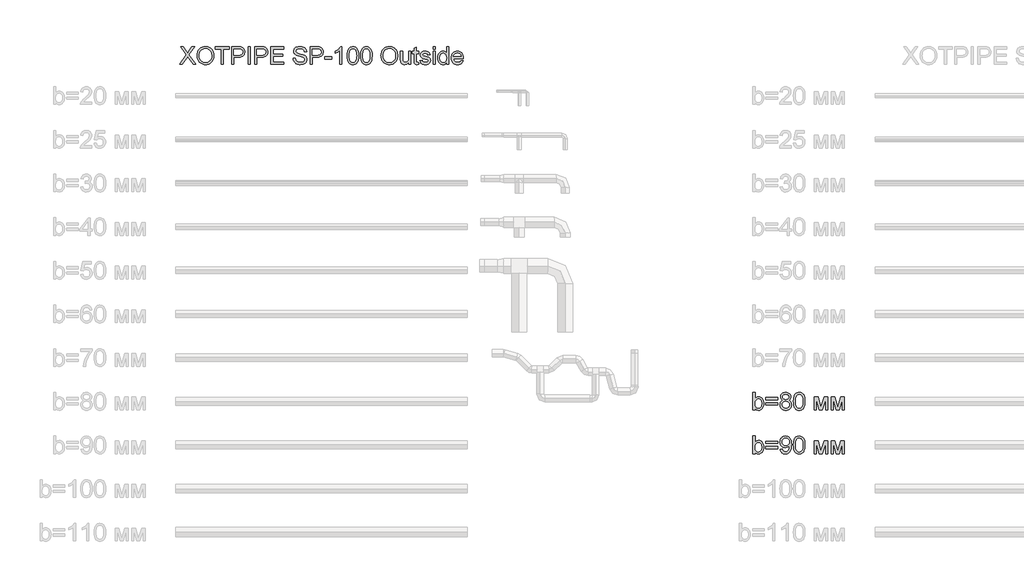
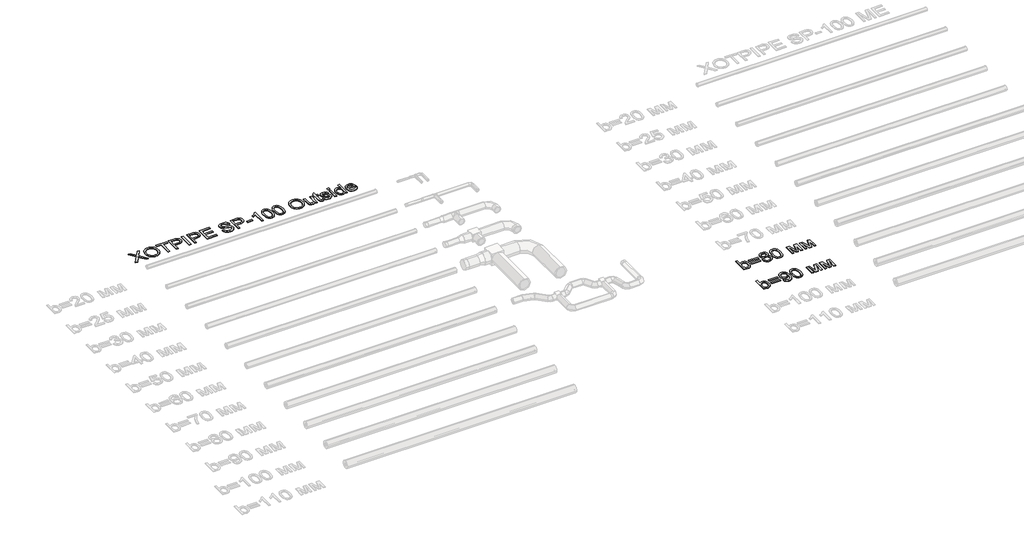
# One storey, part 54 of 86: 3 proxies.
"""IFC4 building model written with IfcOpenShell, lengths in millimetres."""

from ifc_helpers import new_model, si_unit, origin, origin_with_axes, place, context, project, spatial, polyline, outline, extrude, element, save

model = new_model("IFC4")

# Units and contexts
model_context = context("Model", 3, world=origin())
ifc_project = project(units=[si_unit("LENGTHUNIT", "METRE", prefix="MILLI")], contexts=[model_context])

# Site, building, storey
site = spatial("IfcSite", under=ifc_project)
building = spatial("IfcBuilding", under=site)
storey = spatial("IfcBuildingStorey", under=building, Name="Уровень 1", Elevation=0.0)

# Proxies
placement = place(None, origin())
element("IfcBuildingElementProxy", 1, Name="Текст модели 1", ObjectType="Текст модели 1", at=placement, inside=storey, context=model_context, shape_type="SweptSolid", body=[
    extrude(outline(polyline([(27407.9238906, 30543.2937088), (27640.2781587, 30871.7387541), (27445.5950069, 31146.0315697), (27535.9468249, 31146.0315697), (27645.5756594, 30991.6682845), (27671.7320693, 30952.5624284), (27682.5110118, 30931.4827901), (27725.7739344, 30992.6983541), (27834.2255466, 31146.0315697), (27925.9017398, 31146.0315697), (27731.2185879, 30870.8558373), (27963.5728561, 30543.2937088), (27873.2210381, 30543.2937088), (27718.4162945, 30761.6684611), (27686.1898317, 30806.9915229), (27650.7260074, 30757.2538772), (27499.6000838, 30543.2937088), (27407.9238906, 30543.2937088)])), origin_with_axes(), (0.0, 0.0, 1.0), 20.0),
    extrude(outline(polyline([(28010.6617515, 30836.7163882), (28015.6833407, 30907.4141106), (28030.7481084, 30970.000035), (28055.8560546, 31024.4741614), (28072.1762196, 31048.6693004), (28091.0071792, 31070.8364899), (28134.0953579, 31107.8546156), (28183.0144662, 31134.2961341), (28237.7645041, 31150.1610451), (28298.3454717, 31155.4493488), (28338.8952646, 31152.9661453), (28377.4033124, 31145.5165349), (28413.8696152, 31133.1005176), (28448.2941729, 31115.7180933), (28479.7112953, 31093.8934939), (28507.1552921, 31068.1509513), (28530.6261634, 31038.4904655), (28550.1239092, 31004.9120363), (28565.4461943, 30968.1790191), (28576.3906836, 30929.0547689), (28582.9573773, 30887.5392858), (28585.1462751, 30843.6325697), (28582.8424141, 30799.1464394), (28575.9308311, 30757.0699362), (28564.4115262, 30717.4030601), (28548.2844992, 30680.145811), (28527.9314278, 30646.2822733), (28503.7339896, 30616.7965314), (28475.6921845, 30591.6885853), (28443.8060126, 30570.9584348), (28409.3308711, 30554.7348388), (28373.5221574, 30543.146556), (28336.3798715, 30536.1935863), (28297.9040133, 30533.8759297), (28256.6460475, 30536.4373081), (28217.6321619, 30544.1214433), (28180.8623565, 30556.9283352), (28146.3366313, 30574.857984), (28114.9562971, 30597.2160122), (28087.6226648, 30623.3080428), (28064.3357346, 30653.1340755), (28045.0955062, 30686.6941105), (28030.0307385, 30722.64078), (28019.2701901, 30759.6267161), (28012.8138611, 30797.6519188), (28010.6617515, 30836.7163882)]), holes=[polyline([(28086.0039841, 30835.9806242), (28089.770176, 30786.0314463), (28101.0687518, 30741.6924688), (28119.8997114, 30702.9636918), (28146.2630549, 30669.8451151), (28178.3101752, 30643.3208233), (28214.1924653, 30624.3749005), (28253.9099252, 30613.0073469), (28297.4625549, 30609.2181623), (28341.7601456, 30613.0441351), (28381.9466551, 30624.5220533), (28418.0220832, 30643.6519171), (28449.9864301, 30670.4337263), (28476.1566355, 30704.2512787), (28494.8496394, 30744.488372), (28506.0654417, 30791.145006), (28509.8040425, 30844.2211809), (28508.2037558, 30878.7009209), (28503.4028958, 30910.9181866), (28495.4014624, 30940.872978), (28484.1994556, 30968.5652952), (28469.9210357, 30993.6318547), (28452.6903628, 31015.7093729), (28432.5074368, 31034.7978499), (28409.3722578, 31050.8972857), (28384.0021957, 31063.6765866), (28357.1146204, 31072.8046586), (28328.7095319, 31078.2815018), (28298.7869301, 31080.1071162), (28256.7472151, 31076.5892446), (28217.7425265, 31066.0356298), (28181.7728645, 31048.446272), (28148.8382288, 31023.8211709), (28121.3482468, 30990.9739073), (28101.7125453, 30948.7180616), (28089.9311244, 30897.0536339), (28086.0039841, 30835.9806242)])]), origin_with_axes(), (0.0, 0.0, 1.0), 20.0),
    extrude(outline(polyline([(28839.4263102, 30543.2937088), (28839.4263102, 31070.6893371), (28641.6529496, 31070.6893371), (28641.6529496, 31146.0315697), (29112.5419034, 31146.0315697), (29112.5419034, 31070.6893371), (28914.7685428, 31070.6893371), (28914.7685428, 30543.2937088), (28839.4263102, 30543.2937088)])), origin_with_axes(), (0.0, 0.0, 1.0), 20.0),
    extrude(outline(polyline([(29197.3019151, 30543.2937088), (29197.3019151, 31146.0315697), (29420.6798626, 31146.0315697), (29472.6983767, 31144.5968299), (29510.737375, 31140.2926106), (29550.8916948, 31129.5688504), (29583.945892, 31112.1128497), (29610.5621544, 31087.1336623), (29631.4026694, 31053.8403417), (29644.8671504, 31014.5689387), (29649.3553108, 30971.655504), (29646.3248828, 30934.6557723), (29637.233599, 30900.6174907), (29622.0814594, 30869.5406592), (29600.8684638, 30841.4252777), (29571.7460054, 30818.1199533), (29532.865477, 30801.473293), (29484.2268787, 30791.4852968), (29425.8302105, 30788.1559648), (29272.6441477, 30788.1559648), (29272.6441477, 30543.2937088), (29197.3019151, 30543.2937088)]), holes=[polyline([(29272.6441477, 30863.4981974), (29430.2447944, 30863.4981974), (29466.481171, 30865.2272428), (29497.0521648, 30870.4143789), (29521.9577758, 30879.0596058), (29541.1980042, 30891.1629234), (29555.5545991, 30906.4024351), (29565.8093097, 30924.456244), (29571.962136, 30945.3243502), (29574.0130782, 30969.0067536), (29569.1754299, 31002.8518972), (29554.6624852, 31031.39954), (29532.2768658, 31052.8838485), (29503.8211935, 31065.5389892), (29474.7585159, 31069.4017501), (29428.4789609, 31070.6893371), (29272.6441477, 31070.6893371), (29272.6441477, 30863.4981974)])]), origin_with_axes(), (0.0, 0.0, 1.0), 20.0),
    extrude(outline(polyline([(29762.3686597, 30543.2937088), (29762.3686597, 31146.0315697), (29837.7108923, 31146.0315697), (29837.7108923, 30543.2937088), (29762.3686597, 30543.2937088)])), origin_with_axes(), (0.0, 0.0, 1.0), 20.0),
    extrude(outline(polyline([(29988.3953575, 30543.2937088), (29988.3953575, 31146.0315697), (30211.773305, 31146.0315697), (30263.7918191, 31144.5968299), (30301.8308174, 31140.2926106), (30341.9851372, 31129.5688504), (30375.0393345, 31112.1128497), (30401.6555968, 31087.1336623), (30422.4961118, 31053.8403417), (30435.9605929, 31014.5689387), (30440.4487532, 30971.655504), (30437.4183253, 30934.6557723), (30428.3270415, 30900.6174907), (30413.1749018, 30869.5406592), (30391.9619062, 30841.4252777), (30362.8394478, 30818.1199533), (30323.9589194, 30801.473293), (30275.3203211, 30791.4852968), (30216.9236529, 30788.1559648), (30063.7375901, 30788.1559648), (30063.7375901, 30543.2937088), (29988.3953575, 30543.2937088)]), holes=[polyline([(30063.7375901, 30863.4981974), (30221.3382369, 30863.4981974), (30257.5746134, 30865.2272428), (30288.1456072, 30870.4143789), (30313.0512183, 30879.0596058), (30332.2914466, 30891.1629234), (30346.6480415, 30906.4024351), (30356.9027521, 30924.456244), (30363.0555785, 30945.3243502), (30365.1065206, 30969.0067536), (30360.2688724, 31002.8518972), (30345.7559276, 31031.39954), (30323.3703082, 31052.8838485), (30294.9146359, 31065.5389892), (30265.8519583, 31069.4017501), (30219.5724033, 31070.6893371), (30063.7375901, 31070.6893371), (30063.7375901, 30863.4981974)])]), origin_with_axes(), (0.0, 0.0, 1.0), 20.0),
    extrude(outline(polyline([(30544.044323, 30543.2937088), (30544.044323, 31146.0315697), (30977.2621606, 31146.0315697), (30977.2621606, 31070.6893371), (30619.3865557, 31070.6893371), (30619.3865557, 30891.7515346), (30958.4266024, 30891.7515346), (30958.4266024, 30816.409302), (30619.3865557, 30816.409302), (30619.3865557, 30618.6359414), (30986.6799396, 30618.6359414), (30986.6799396, 30543.2937088), (30544.044323, 30543.2937088)])), origin_with_axes(), (0.0, 0.0, 1.0), 20.0),
    extrude(outline(polyline([(31306.8844282, 30750.4848485), (31382.2266609, 30750.4848485), (31390.8718877, 30708.6750597), (31406.5068725, 30675.0690395), (31430.8974488, 30648.3975948), (31465.8094502, 30627.3915329), (31508.4837616, 30613.761505), (31556.1612682, 30609.2181623), (31598.1366038, 30612.657859), (31634.8880151, 30622.976949), (31664.6680627, 30639.3109095), (31685.7293069, 30660.7952181), (31698.2556888, 30685.4617058), (31702.4311495, 30711.3422042), (31699.3041525, 30736.560515), (31689.9231616, 30758.3575232), (31670.8668743, 30776.953958), (31638.7139879, 30792.5705487), (31529.0115769, 30821.3389208), (31456.9986764, 30840.376814), (31410.9214565, 30858.4950023), (31373.4158871, 30883.8420717), (31346.8364129, 30914.5602183), (31330.999093, 30949.9872545), (31325.7199864, 30989.4609925), (31327.3524627, 31011.8971957), (31332.2498918, 31033.5884379), (31340.4122736, 31054.534719), (31351.8396081, 31074.736039), (31366.4031365, 31093.3692621), (31383.9741003, 31109.6112522), (31404.5524994, 31123.4620093), (31428.1383339, 31134.9215334), (31481.1501294, 31150.3173949), (31539.8273076, 31155.4493488), (31603.3973164, 31150.0782716), (31659.021074, 31133.9650403), (31683.356468, 31121.9628902), (31704.7120178, 31107.4407484), (31723.0877235, 31090.398615), (31738.483585, 31070.8364899), (31750.7800407, 31049.3245902), (31759.8575289, 31026.4331331), (31765.7160497, 31002.1621184), (31768.355603, 30976.5115463), (31693.0133704, 30976.5115463), (31687.973387, 31000.5526347), (31679.1810074, 31021.4667261), (31666.6362313, 31039.2538206), (31650.3390589, 31053.9139181), (31629.9859876, 31065.3734423), (31605.2735145, 31073.5588166), (31576.2016399, 31078.4700413), (31542.7703635, 31080.1071162), (31508.2722295, 31078.4884354), (31478.7956846, 31073.632393), (31454.340729, 31065.5389892), (31434.9073626, 31054.2082237), (31420.1001123, 31040.5873928), (31409.5235049, 31025.6237927), (31403.1775405, 31009.3174232), (31401.062219, 30991.6682845), (31402.5613381, 30976.4839552), (31407.0586955, 30962.7159715), (31414.5542912, 30950.3643335), (31425.0481251, 30939.4290412), (31441.5660267, 30929.073163), (31467.5752837, 30918.6069203), (31548.0678643, 30897.343341), (31631.1356188, 30877.1466194), (31681.3882993, 30859.5250719), (31724.3385223, 30832.1914396), (31740.9437958, 30816.1241935), (31754.3025108, 30798.4566607), (31764.571017, 30779.2808117), (31771.9056642, 30758.688617), (31777.7733821, 30713.2551906), (31776.0857234, 30689.6877503), (31771.0227475, 30666.8100887), (31762.5844542, 30644.6222058), (31750.7708436, 30623.1241018), (31735.7888494, 30603.1481094), (31717.8454051, 30585.5265618), (31696.9405107, 30570.259459), (31673.0741662, 30557.346801), (31646.940749, 30547.0782948), (31619.2346362, 30539.7436475), (31559.1043241, 30533.8759297), (31520.5640866, 30535.4578223), (31485.2888018, 30540.2035), (31453.2784697, 30548.1129629), (31424.5330903, 30559.186211), (31398.8779197, 30573.4416383), (31376.1382138, 30590.897639), (31356.3139728, 30611.554213), (31339.4051966, 30635.4113604), (31325.7843657, 30661.6965289), (31315.8239607, 30689.6371665), (31309.5239816, 30719.233273), (31306.8844282, 30750.4848485)])), origin_with_axes(), (0.0, 0.0, 1.0), 20.0),
    extrude(outline(polyline([(31890.786731, 30543.2937088), (31890.786731, 31146.0315697), (32114.1646785, 31146.0315697), (32166.1831926, 31144.5968299), (32204.2221909, 31140.2926106), (32244.3765107, 31129.5688504), (32277.4307079, 31112.1128497), (32304.0469703, 31087.1336623), (32324.8874853, 31053.8403417), (32338.3519663, 31014.5689387), (32342.8401267, 30971.655504), (32339.8096987, 30934.6557723), (32330.7184149, 30900.6174907), (32315.5662752, 30869.5406592), (32294.3532797, 30841.4252777), (32265.2308213, 30818.1199533), (32226.3502929, 30801.473293), (32177.7116946, 30791.4852968), (32119.3150264, 30788.1559648), (31966.1289636, 30788.1559648), (31966.1289636, 30543.2937088), (31890.786731, 30543.2937088)]), holes=[polyline([(31966.1289636, 30863.4981974), (32123.7296103, 30863.4981974), (32159.9659869, 30865.2272428), (32190.5369807, 30870.4143789), (32215.4425917, 30879.0596058), (32234.6828201, 30891.1629234), (32249.0394149, 30906.4024351), (32259.2941256, 30924.456244), (32265.4469519, 30945.3243502), (32267.497894, 30969.0067536), (32262.6602458, 31002.8518972), (32248.1473011, 31031.39954), (32225.7616817, 31052.8838485), (32197.3060094, 31065.5389892), (32168.2433317, 31069.4017501), (32121.9637768, 31070.6893371), (31966.1289636, 31070.6893371), (31966.1289636, 30863.4981974)])]), origin_with_axes(), (0.0, 0.0, 1.0), 20.0),
    extrude(outline(polyline([(32399.3468011, 30722.2315113), (32399.3468011, 30797.5737439), (32634.791278, 30797.5737439), (32634.791278, 30722.2315113), (32399.3468011, 30722.2315113)])), origin_with_axes(), (0.0, 0.0, 1.0), 20.0),
    extrude(outline(polyline([(32983.2491039, 30543.2937088), (32907.9068713, 30543.2937088), (32907.9068713, 31013.0054402), (32876.4529607, 30987.5664003), (32836.5377642, 30962.1641485), (32794.6360049, 30939.9624701), (32757.222406, 30924.1251502), (32757.222406, 30995.3471045), (32816.396225, 31027.5367791), (32867.660581, 31065.8332947), (32908.0724181, 31106.5578316), (32934.6886805, 31146.0315697), (32983.2491039, 31146.0315697), (32983.2491039, 30543.2937088)])), origin_with_axes(), (0.0, 0.0, 1.0), 20.0),
    extrude(outline(polyline([(33162.1869063, 30839.8065969), (33167.7235303, 30936.2836501), (33174.6443104, 30977.1967265), (33184.3334024, 31013.2261694), (33196.7494198, 31044.6662845), (33211.8509757, 31071.8113772), (33229.6380701, 31094.6614476), (33250.1107032, 31113.2164957), (33273.3378526, 31127.5730906), (33299.3884964, 31137.8278012), (33328.2626345, 31143.9806276), (33359.9602669, 31146.0315697), (33406.3869747, 31141.1755274), (33447.9576402, 31126.6074004), (33482.7224887, 31102.8974058), (33508.7317458, 31070.6157607), (33528.3766443, 31030.0383766), (33544.0484173, 30981.4411651), (33554.312325, 30919.7289604), (33557.7336275, 30839.8065969), (33552.2521858, 30743.8813667), (33545.4003836, 30703.106246), (33535.8078606, 30667.1227884), (33523.4884123, 30635.6688778), (33508.4558343, 30608.4823983), (33490.7101265, 30585.56335), (33470.2512891, 30566.9117329), (33446.9965485, 30552.458569), (33420.8631312, 30542.1348805), (33391.8510374, 30535.9406674), (33359.9602669, 30533.8759297), (33318.4631779, 30537.4627792), (33281.6749784, 30548.2233275), (33249.5956684, 30566.1575748), (33222.2252479, 30591.265521), (33195.9584735, 30636.6529621), (33177.1964917, 30693.2056218), (33165.9393027, 30760.9235001), (33162.1869063, 30839.8065969)]), holes=[polyline([(33237.5291389, 30839.9537497), (33239.7364309, 30774.456959), (33246.3583068, 30721.440565), (33257.3947667, 30680.9045676), (33272.8458105, 30652.848967), (33291.5342158, 30633.7604899), (33312.2827603, 30620.1258635), (33335.0914441, 30611.9450876), (33359.9602669, 30609.2181623), (33384.8290898, 30611.9542847), (33407.6377735, 30620.1626517), (33428.386318, 30633.8432634), (33447.0747234, 30652.9961198), (33462.5257672, 30681.0977057), (33473.562227, 30721.624506), (33480.1841029, 30774.5765206), (33482.3913949, 30839.9537497), (33480.2576793, 30903.7168965), (33473.8565326, 30955.79979), (33463.1879548, 30996.2024301), (33448.2519458, 31024.9248169), (33429.8762401, 31044.9467945), (33408.8885723, 31059.248207), (33385.2889423, 31067.8290546), (33359.0773501, 31070.6893371), (33334.337286, 31068.1693454), (33311.9148784, 31060.6093704), (33291.8101273, 31048.0094121), (33274.0230329, 31030.3694704), (33258.0569543, 30999.0995008), (33246.6526124, 30956.9402242), (33239.8100073, 30903.8916405), (33237.5291389, 30839.9537497)])]), origin_with_axes(), (0.0, 0.0, 1.0), 20.0),
    extrude(outline(polyline([(33623.6580811, 30839.8065969), (33629.1947051, 30936.2836501), (33636.1154851, 30977.1967265), (33645.8045772, 31013.2261694), (33658.2205945, 31044.6662845), (33673.3221504, 31071.8113772), (33691.1092449, 31094.6614476), (33711.5818779, 31113.2164957), (33734.8090274, 31127.5730906), (33760.8596712, 31137.8278012), (33789.7338093, 31143.9806276), (33821.4314417, 31146.0315697), (33867.8581495, 31141.1755274), (33909.4288149, 31126.6074004), (33944.1936635, 31102.8974058), (33970.2029205, 31070.6157607), (33989.8478191, 31030.0383766), (34005.5195921, 30981.4411651), (34015.7834997, 30919.7289604), (34019.2048023, 30839.8065969), (34013.7233606, 30743.8813667), (34006.8715584, 30703.106246), (33997.2790354, 30667.1227884), (33984.9595871, 30635.6688778), (33969.927009, 30608.4823983), (33952.1813013, 30585.56335), (33931.7224638, 30566.9117329), (33908.4677232, 30552.458569), (33882.334306, 30542.1348805), (33853.3222121, 30535.9406674), (33821.4314417, 30533.8759297), (33779.9343526, 30537.4627792), (33743.1461531, 30548.2233275), (33711.0668431, 30566.1575748), (33683.6964227, 30591.265521), (33657.4296482, 30636.6529621), (33638.6676665, 30693.2056218), (33627.4104774, 30760.9235001), (33623.6580811, 30839.8065969)]), holes=[polyline([(33699.0003137, 30839.9537497), (33701.2076057, 30774.456959), (33707.8294816, 30721.440565), (33718.8659414, 30680.9045676), (33734.3169852, 30652.848967), (33753.0053906, 30633.7604899), (33773.7539351, 30620.1258635), (33796.5626188, 30611.9450876), (33821.4314417, 30609.2181623), (33846.3002645, 30611.9542847), (33869.1089482, 30620.1626517), (33889.8574928, 30633.8432634), (33908.5458981, 30652.9961198), (33923.9969419, 30681.0977057), (33935.0334018, 30721.624506), (33941.6552777, 30774.5765206), (33943.8625697, 30839.9537497), (33941.7288541, 30903.7168965), (33935.3277074, 30955.79979), (33924.6591295, 30996.2024301), (33909.7231205, 31024.9248169), (33891.3474149, 31044.9467945), (33870.359747, 31059.248207), (33846.760117, 31067.8290546), (33820.5485249, 31070.6893371), (33795.8084607, 31068.1693454), (33773.3860531, 31060.6093704), (33753.2813021, 31048.0094121), (33735.4942076, 31030.3694704), (33719.528129, 30999.0995008), (33708.1237872, 30956.9402242), (33701.281182, 30903.8916405), (33699.0003137, 30839.9537497)])]), origin_with_axes(), (0.0, 0.0, 1.0), 20.0),
    extrude(outline(polyline([(34320.5737327, 30836.7163882), (34325.595322, 30907.4141106), (34340.6600897, 30970.000035), (34365.7680358, 31024.4741614), (34382.0882008, 31048.6693004), (34400.9191605, 31070.8364899), (34444.0073392, 31107.8546156), (34492.9264475, 31134.2961341), (34547.6764854, 31150.1610451), (34608.257453, 31155.4493488), (34648.8072459, 31152.9661453), (34687.3152937, 31145.5165349), (34723.7815965, 31133.1005176), (34758.2061542, 31115.7180933), (34789.6232766, 31093.8934939), (34817.0672734, 31068.1509513), (34840.5381447, 31038.4904655), (34860.0358905, 31004.9120363), (34875.3581756, 30968.1790191), (34886.3026649, 30929.0547689), (34892.8693585, 30887.5392858), (34895.0582564, 30843.6325697), (34892.7543954, 30799.1464394), (34885.8428124, 30757.0699362), (34874.3235074, 30717.4030601), (34858.1964805, 30680.145811), (34837.8434091, 30646.2822733), (34813.6459709, 30616.7965314), (34785.6041658, 30591.6885853), (34753.7179939, 30570.9584348), (34719.2428524, 30554.7348388), (34683.4341387, 30543.146556), (34646.2918527, 30536.1935863), (34607.8159946, 30533.8759297), (34566.5580288, 30536.4373081), (34527.5441432, 30544.1214433), (34490.7743378, 30556.9283352), (34456.2486126, 30574.857984), (34424.8682784, 30597.2160122), (34397.5346461, 30623.3080428), (34374.2477158, 30653.1340755), (34355.0074875, 30686.6941105), (34339.9427198, 30722.64078), (34329.1821714, 30759.6267161), (34322.7258424, 30797.6519188), (34320.5737327, 30836.7163882)]), holes=[polyline([(34395.9159653, 30835.9806242), (34399.6821573, 30786.0314463), (34410.980733, 30741.6924688), (34429.8116927, 30702.9636918), (34456.1750362, 30669.8451151), (34488.2221565, 30643.3208233), (34524.1044466, 30624.3749005), (34563.8219065, 30613.0073469), (34607.3745362, 30609.2181623), (34651.6721269, 30613.0441351), (34691.8586364, 30624.5220533), (34727.9340645, 30643.6519171), (34759.8984114, 30670.4337263), (34786.0686168, 30704.2512787), (34804.7616207, 30744.488372), (34815.977423, 30791.145006), (34819.7160238, 30844.2211809), (34818.1157371, 30878.7009209), (34813.3148771, 30910.9181866), (34805.3134437, 30940.872978), (34794.1114369, 30968.5652952), (34779.833017, 30993.6318547), (34762.602344, 31015.7093729), (34742.4194181, 31034.7978499), (34719.2842391, 31050.8972857), (34693.914177, 31063.6765866), (34667.0266017, 31072.8046586), (34638.6215131, 31078.2815018), (34608.6989114, 31080.1071162), (34566.6591964, 31076.5892446), (34527.6545078, 31066.0356298), (34491.6848457, 31048.446272), (34458.7502101, 31023.8211709), (34431.260228, 30990.9739073), (34411.6245265, 30948.7180616), (34399.8431056, 30897.0536339), (34395.9159653, 30835.9806242)])]), origin_with_axes(), (0.0, 0.0, 1.0), 20.0),
    extrude(outline(polyline([(35271.7694195, 30543.2937088), (35271.7694195, 30619.3717054), (35244.5093636, 30581.9673035), (35212.7611474, 30555.2498736), (35176.5247709, 30539.2194157), (35135.800234, 30533.8759297), (35099.104005, 30537.6283261), (35064.9461618, 30548.8855151), (35036.2881543, 30565.8080869), (35016.0914328, 30586.5566314), (35002.4981931, 30611.7565481), (34993.6506311, 30642.0332363), (34989.2360472, 30712.0779682), (34989.2360472, 30985.9293254), (35064.5782798, 30985.9293254), (35064.5782798, 30747.5417925), (35065.718714, 30699.8642859), (35069.1400165, 30670.7280319), (35080.1212941, 30645.105051), (35098.9384581, 30625.6256993), (35124.3407099, 30613.3200466), (35155.0772506, 30609.2181623), (35187.5796249, 30613.4120171), (35217.9850718, 30625.9935813), (35243.0562297, 30645.8040268), (35259.5557372, 30671.6845251), (35268.7159989, 30707.1299554), (35271.7694195, 30755.6351964), (35271.7694195, 30985.9293254), (35347.1116521, 30985.9293254), (35347.1116521, 30543.2937088), (35271.7694195, 30543.2937088)])), origin_with_axes(), (0.0, 0.0, 1.0), 20.0),
    extrude(outline(polyline([(35610.8094662, 30606.1279536), (35620.2272453, 30541.0864168), (35563.8677236, 30533.8759297), (35527.7049235, 30537.0029267), (35500.7391733, 30546.3839176), (35481.6828859, 30560.84168), (35469.2484745, 30579.1989915), (35462.4058694, 30610.7264785), (35460.125001, 30664.6947672), (35460.125001, 30910.5870928), (35403.6183265, 30910.5870928), (35403.6183265, 30985.9293254), (35460.125001, 30985.9293254), (35460.125001, 31093.4980208), (35535.4672336, 31137.791013), (35535.4672336, 30985.9293254), (35610.8094662, 30985.9293254), (35610.8094662, 30910.5870928), (35535.4672336, 30910.5870928), (35535.4672336, 30666.9020592), (35539.4403592, 30628.0537205), (35552.316229, 30614.2949339), (35563.1871419, 30610.4873552), (35577.9943922, 30609.2181623), (35610.8094662, 30606.1279536)])), origin_with_axes(), (0.0, 0.0, 1.0), 20.0),
    extrude(outline(polyline([(35657.8983616, 30675.1426159), (35733.2405942, 30684.5603949), (35737.7931339, 30667.3803058), (35745.1231827, 30652.3339322), (35755.2307405, 30639.4212741), (35768.1158074, 30628.6423317), (35783.8151715, 30620.1442576), (35802.3656211, 30614.0742047), (35848.0197767, 30609.2181623), (35893.1221093, 30613.6695345), (35910.6516864, 30619.2337497), (35924.8335373, 30627.0236509), (35943.5955191, 30646.3742438), (35948.2860145, 30657.2083686), (35949.849513, 30668.8150456), (35948.2768174, 30678.9869827), (35943.5587309, 30688.0184857), (35924.6863845, 30702.6601891), (35896.4698355, 30712.225121), (35847.1368599, 30724.1444976), (35778.379715, 30744.0285195), (35733.6820526, 30761.0062735), (35704.9688629, 30779.529132), (35684.1651361, 30804.048467), (35671.5283895, 30833.00078), (35667.3161407, 30864.8225726), (35670.700655, 30894.0140089), (35680.8541981, 30920.961365), (35696.8570649, 30944.5977832), (35717.7895504, 30963.8564057), (35738.5932772, 30975.9781174), (35765.6877862, 30986.1500546), (35797.0129381, 30993.047842), (35830.5085937, 30995.3471045), (35879.5472637, 30991.6498904), (35922.1847869, 30980.5582483), (35956.4713889, 30963.1574299), (35980.457295, 30940.5326872), (35996.3497972, 30911.0101571), (36006.3561874, 30872.9159765), (35931.0139548, 30863.4981974), (35921.5042052, 30887.208192), (35902.6870412, 30905.0688629), (35874.3785217, 30916.2708696), (35836.3947057, 30920.0048719), (35793.131783, 30916.4364165), (35764.2898346, 30905.7310504), (35748.0662386, 30890.2800066), (35742.6583733, 30872.4745181), (35744.9024535, 30860.8862352), (35751.634694, 30850.5487512), (35763.1494004, 30841.3149131), (35779.7408784, 30833.920485), (35844.6352623, 30817.88083), (35955.2205901, 30782.4170057), (35984.4304205, 30765.4576457), (36006.5769166, 30742.2442918), (36020.5380383, 30712.7033676), (36025.1917456, 30676.7612966), (36019.728698, 30639.6052151), (36003.3395551, 30604.6564256), (35976.6497163, 30574.6556489), (35940.2845811, 30552.3436059), (35896.3594709, 30538.4928488), (35846.9897071, 30533.8759297), (35806.4399142, 30536.1016158), (35771.0220751, 30542.778674), (35740.7361899, 30553.9071044), (35715.5822584, 30569.4869069), (35695.036049, 30589.4445051), (35678.5733297, 30613.7063227), (35666.1941006, 30642.2723596), (35657.8983616, 30675.1426159)])), origin_with_axes(), (0.0, 0.0, 1.0), 20.0),
    extrude(outline(polyline([(36109.9517573, 31070.6893371), (36109.9517573, 31146.0315697), (36185.2939899, 31146.0315697), (36185.2939899, 31070.6893371), (36109.9517573, 31070.6893371)])), origin_with_axes(), (0.0, 0.0, 1.0), 20.0),
    extrude(outline(polyline([(36109.9517573, 30543.2937088), (36109.9517573, 30985.9293254), (36185.2939899, 30985.9293254), (36185.2939899, 30543.2937088), (36109.9517573, 30543.2937088)])), origin_with_axes(), (0.0, 0.0, 1.0), 20.0),
    extrude(outline(polyline([(36571.422932, 30543.2937088), (36571.422932, 30614.3685103), (36548.8809628, 30579.1530063), (36521.5749217, 30553.9990749), (36489.5048087, 30538.906716), (36452.670624, 30533.8759297), (36427.8018011, 30535.6969456), (36403.9630478, 30541.1599932), (36381.1543641, 30550.2650726), (36359.37575, 30563.0121837), (36339.3077872, 30579.0196491), (36321.6310573, 30597.905791), (36306.3455604, 30619.6706095), (36293.4512965, 30644.3141047), (36283.2149799, 30671.3672269), (36275.9033253, 30700.3609266), (36270.0540016, 30764.1700587), (36275.4434728, 30827.1882445), (36291.6118865, 30884.0995891), (36303.7335982, 30909.4558556), (36318.5408485, 30931.6667311), (36336.0336374, 30950.7322155), (36356.2119648, 30966.6523088), (36378.3630595, 30979.2062819), (36401.7741499, 30988.1734056), (36426.4452362, 30993.5536797), (36452.3763184, 30995.3471045), (36489.2380943, 30990.2151506), (36521.8324391, 30974.8192891), (36549.4603769, 30951.2196592), (36571.422932, 30921.4763998), (36571.422932, 31146.0315697), (36646.7651646, 31146.0315697), (36646.7651646, 30543.2937088), (36571.422932, 30543.2937088)]), holes=[polyline([(36345.3962342, 30764.4643643), (36347.5207527, 30727.9290837), (36353.8943083, 30696.3142247), (36364.5169009, 30669.6197874), (36379.3885305, 30647.8457718), (36397.1480339, 30630.9461927), (36416.4342475, 30618.8750647), (36437.2471713, 30611.6323879), (36459.5868055, 30609.2181623), (36482.0322057, 30611.5220233), (36502.7209694, 30618.4336063), (36521.6530966, 30629.9529113), (36538.8285872, 30646.0799383), (36553.0886131, 30666.9434459), (36563.2743458, 30692.6721929), (36569.3857855, 30723.2661794), (36571.422932, 30758.7254052), (36569.3489973, 30797.601335), (36563.127193, 30830.9406408), (36552.7575193, 30858.7433226), (36538.2399761, 30881.0093804), (36520.6874064, 30898.0699079), (36501.2126532, 30910.255999), (36479.8157167, 30917.5676536), (36456.4965967, 30920.0048719), (36433.7155042, 30917.6642227), (36412.9025803, 30910.6422751), (36394.0578251, 30898.9390291), (36377.1812386, 30882.5544848), (36363.2752991, 30861.1299571), (36353.3424853, 30834.3067611), (36347.382797, 30802.0848968), (36345.3962342, 30764.4643643)])]), origin_with_axes(), (0.0, 0.0, 1.0), 20.0),
    extrude(outline(polyline([(37069.6823063, 30675.1426159), (37143.5530109, 30665.7248368), (37132.226844, 30636.1379273), (37116.9367486, 30610.0642909), (37097.6827246, 30587.5039276), (37074.4647722, 30568.4568373), (37047.5220146, 30553.3276902), (37017.0935751, 30542.5211566), (36983.1794536, 30536.0372364), (36945.7796503, 30533.8759297), (36899.0310458, 30537.6053334), (36857.3776069, 30548.7935446), (36820.8193336, 30567.4405633), (36789.356226, 30593.5463893), (36764.0551417, 30626.3844559), (36745.9829387, 30665.2281961), (36735.1396169, 30710.0776098), (36731.5251763, 30760.9326971), (36735.1764051, 30813.5122313), (36746.1300915, 30859.8561656), (36764.3862355, 30899.9645002), (36789.9448372, 30933.8372349), (36821.3251713, 30960.7478028), (36857.0465131, 30979.9696371), (36897.1088624, 30991.5027376), (36941.5122192, 30995.3471045), (36984.4854347, 30991.5119347), (37023.347569, 30980.0064253), (37058.098622, 30960.8305763), (37088.7385936, 30933.9843877), (37113.7499708, 30900.1852294), (37131.6152402, 30860.1504712), (37142.3344018, 30813.8801133), (37145.9074557, 30761.3741555), (37145.4659973, 30741.0670694), (36806.8674089, 30741.0670694), (36811.2314091, 30711.0019134), (36819.9088257, 30684.6707595), (36832.8996586, 30662.073608), (36850.203908, 30643.2104587), (36870.8650805, 30628.338829), (36893.9266831, 30617.7162364), (36919.3887157, 30611.3426809), (36947.2511783, 30609.2181623), (36987.3503158, 30613.1544997), (37021.1218829, 30624.9635117), (37048.5658798, 30645.3809625), (37069.6823063, 30675.1426159)]), holes=[polyline([(36806.8674089, 30816.409302), (37070.5652231, 30816.409302), (37060.3748918, 30856.2141339), (37051.6101033, 30871.8675128), (37040.3988995, 30884.6882003), (37019.85269, 30900.1392441), (36996.4737892, 30911.175704), (36970.2621971, 30917.7975799), (36941.2179136, 30920.0048719), (36914.7258114, 30918.2436368), (36890.4318041, 30912.9599317), (36868.3358918, 30904.1537564), (36848.4380744, 30891.825111), (36831.7408303, 30876.5442127), (36819.2466381, 30858.8812784), (36810.9554976, 30838.8363081), (36806.8674089, 30816.409302)])]), origin_with_axes(), (0.0, 0.0, 1.0), 20.0),
])
element("IfcBuildingElementProxy", 2, Name="Текст модели 1", ObjectType="Текст модели 1", at=placement, inside=storey, context=model_context, shape_type="SweptSolid", body=[
    extrude(outline(polyline([(47159.6307988, 18669.2937088), (47084.2885662, 18669.2937088), (47084.2885662, 19272.0315697), (47159.6307988, 19272.0315697), (47159.6307988, 19048.5064694), (47184.4076512, 19080.3742473), (47212.3850769, 19103.1369457), (47243.563076, 19116.7945648), (47277.9416484, 19121.3471045), (47316.7531989, 19117.2452202), (47353.4310339, 19104.9395675), (47385.8782258, 19085.2026984), (47411.9978475, 19058.8071653), (47432.4704805, 19026.0104854), (47447.9767066, 18987.0701762), (47457.7439736, 18943.6049185), (47460.9997292, 18897.233393), (47457.6290105, 18843.7249568), (47447.5168541, 18796.6544555), (47430.6632602, 18756.0218892), (47407.0682288, 18721.8272577), (47378.7459136, 18694.7235517), (47347.7104688, 18675.3637617), (47313.9618943, 18663.7478877), (47277.50019, 18659.8759297), (47241.9903805, 18664.8699278), (47210.5088787, 18679.8519221), (47183.0556848, 18704.8219125), (47159.6307988, 18739.7798991), (47159.6307988, 18669.2937088)]), holes=[polyline([(47159.6307988, 18893.7017259), (47164.7811467, 18830.8674811), (47171.2190816, 18807.065516), (47180.2321905, 18788.3403224), (47198.4883345, 18765.0993774), (47219.7059286, 18748.4987024), (47243.8849727, 18738.5382973), (47271.0254669, 18735.2181623), (47293.5582391, 18737.6645776), (47314.5091188, 18745.0038234), (47333.8781058, 18757.2358997), (47351.6652003, 18774.3608066), (47366.5368299, 18796.3325588), (47377.1594225, 18823.105171), (47383.5329781, 18854.6786432), (47385.6574966, 18891.0529755), (47383.6203501, 18928.1170865), (47377.5089104, 18959.9940614), (47367.3231777, 18986.6839001), (47353.0631519, 19008.1866028), (47335.9152524, 19024.7320955), (47317.0658986, 19036.5503046), (47296.5150907, 19043.64123), (47274.2628285, 19046.0048719), (47251.7300563, 19043.5584566), (47230.7791767, 19036.2192108), (47211.4101896, 19023.9871344), (47193.6230951, 19006.8622276), (47178.7514655, 18985.1112046), (47168.1288729, 18959.00078), (47161.7553173, 18928.5309538), (47159.6307988, 18893.7017259)])]), origin_with_axes(), (0.0, 0.0, 1.0), 20.0),
    extrude(outline(polyline([(47931.8886831, 19017.7515346), (47536.3419619, 19017.7515346), (47536.3419619, 19093.0937672), (47931.8886831, 19093.0937672), (47931.8886831, 19017.7515346)])), origin_with_axes(), (0.0, 0.0, 1.0), 20.0),
    extrude(outline(polyline([(47931.8886831, 18838.8137322), (47536.3419619, 18838.8137322), (47536.3419619, 18914.1559648), (47931.8886831, 18914.1559648), (47931.8886831, 18838.8137322)])), origin_with_axes(), (0.0, 0.0, 1.0), 20.0),
    extrude(outline(polyline([(48126.4246821, 19001.2704212), (48086.0864213, 19021.136049), (48070.4284439, 19033.7176132), (48057.7779018, 19048.065011), (48041.0576651, 19081.5054844), (48035.4842529, 19120.9056461), (48038.5192794, 19151.6329897), (48047.6243588, 19179.8035535), (48062.7994911, 19205.4173374), (48084.0446763, 19228.4743415), (48110.3390419, 19247.5306288), (48140.6617153, 19261.1422626), (48175.0126966, 19269.3092429), (48213.3919858, 19272.0315697), (48251.9552159, 19269.2448636), (48286.5637146, 19260.8847452), (48317.2174819, 19246.9512147), (48343.9165177, 19227.4442719), (48365.547979, 19203.9366124), (48380.9990228, 19178.0009317), (48390.2696491, 19149.6372299), (48393.3598578, 19118.8455069), (48387.860022, 19080.7145381), (48371.3605145, 19047.8442818), (48358.9398986, 19033.593453), (48343.6773944, 19021.0808667), (48304.6267206, 19001.2704212), (48329.3897774, 18990.7352006), (48350.9982461, 18977.3764857), (48369.4521267, 18961.1942764), (48384.7514191, 18942.1885728), (48396.7581677, 18920.7824392), (48405.3344168, 18897.3989399), (48410.4801662, 18872.0380749), (48412.195416, 18844.6998441), (48408.7925075, 18807.1206983), (48398.5837822, 18772.6685494), (48381.5692399, 18741.3433976), (48357.7488807, 18713.1452426), (48328.3735034, 18689.8399182), (48294.6939067, 18673.1932579), (48256.7100907, 18663.2052618), (48214.4220554, 18659.8759297), (48172.13402, 18663.2190574), (48134.150204, 18673.2484402), (48100.4706074, 18689.9640784), (48071.09523, 18713.3659718), (48047.2748709, 18741.7618633), (48030.2603286, 18773.4594957), (48020.0516032, 18808.458869), (48016.6486948, 18846.7599833), (48018.4329224, 18875.3444143), (48023.7856055, 18901.5008242), (48032.7067438, 18925.2292128), (48045.1963376, 18946.5295804), (48060.9784752, 18965.0156506), (48079.7772451, 18980.3011475), (48101.5926474, 18992.3860711), (48126.4246821, 19001.2704212)]), holes=[polyline([(48110.8264855, 19118.6983541), (48112.4957501, 19101.4262944), (48117.5035437, 19085.8097037), (48125.8498665, 19071.848582), (48137.5347184, 19059.5429293), (48152.4109466, 19049.4997508), (48170.3313982, 19042.3260519), (48191.2960734, 19038.0218326), (48215.3049722, 19036.5870928), (48238.7206611, 19038.0126355), (48259.2300824, 19042.2892637), (48276.8332358, 19049.4169774), (48291.5301216, 19059.3957765), (48303.1184044, 19071.4439118), (48311.3957493, 19084.7796342), (48316.3621562, 19099.4029435), (48318.0176252, 19115.3138398), (48316.3069739, 19131.8455369), (48311.1750201, 19147.0068736), (48302.6217637, 19160.7978499), (48290.6472048, 19173.2184658), (48275.6192253, 19183.486972), (48257.9057072, 19190.8216193), (48237.5066506, 19195.2224076), (48214.4220554, 19196.6893371), (48191.1581177, 19195.2545973), (48170.662492, 19190.950378), (48152.9351784, 19183.7766791), (48137.9761768, 19173.7335006), (48126.0981868, 19161.6853652), (48117.6139083, 19148.4967957), (48112.5233412, 19134.167792), (48110.8264855, 19118.6983541)]), polyline([(48091.9909274, 18849.4087336), (48095.1363184, 18820.5851793), (48104.5724916, 18792.68133), (48121.9917041, 18768.345936), (48149.086213, 18750.2277477), (48181.533405, 18738.9705587), (48215.0106666, 18735.2181623), (48242.2523283, 18737.1909295), (48266.2934167, 18743.1092311), (48287.1339317, 18752.9730671), (48304.7738734, 18766.7824375), (48318.8085715, 18783.6360314), (48328.8333559, 18802.632538), (48334.8482265, 18823.7719571), (48336.8531834, 18847.0542889), (48334.7838471, 18870.7091012), (48328.5758385, 18892.2301979), (48318.2291574, 18911.617579), (48303.7438038, 18928.8712446), (48285.6256155, 18943.0347014), (48264.3804303, 18953.1514563), (48240.0082481, 18959.2215092), (48212.509069, 18961.2448602), (48185.6674789, 18959.2491003), (48161.9436888, 18953.2618209), (48141.3376985, 18943.2830218), (48123.8495082, 18929.312703), (48109.9113791, 18912.344146), (48099.9555726, 18893.3706321), (48093.9820887, 18872.3921613), (48091.9909274, 18849.4087336)])]), origin_with_axes(), (0.0, 0.0, 1.0), 20.0),
    extrude(outline(polyline([(48478.1198695, 18965.8065969), (48483.6564935, 19062.2836501), (48490.5772736, 19103.1967265), (48500.2663656, 19139.2261694), (48512.682383, 19170.6662845), (48527.7839389, 19197.8113772), (48545.5710333, 19220.6614476), (48566.0436664, 19239.2164957), (48589.2708158, 19253.5730906), (48615.3214596, 19263.8278012), (48644.1955977, 19269.9806276), (48675.8932301, 19272.0315697), (48722.3199379, 19267.1755274), (48763.8906034, 19252.6074004), (48798.6554519, 19228.8974058), (48824.664709, 19196.6157607), (48844.3096075, 19156.0383766), (48859.9813805, 19107.4411651), (48870.2452882, 19045.7289604), (48873.6665907, 18965.8065969), (48868.185149, 18869.8813667), (48861.3333468, 18829.106246), (48851.7408238, 18793.1227884), (48839.4213755, 18761.6688778), (48824.3887975, 18734.4823983), (48806.6430897, 18711.56335), (48786.1842523, 18692.9117329), (48762.9295116, 18678.458569), (48736.7960944, 18668.1348805), (48707.7840006, 18661.9406674), (48675.8932301, 18659.8759297), (48634.3961411, 18663.4627792), (48597.6079415, 18674.2233275), (48565.5286316, 18692.1575748), (48538.1582111, 18717.265521), (48511.8914367, 18762.6529621), (48493.1294549, 18819.2056218), (48481.8722659, 18886.9235001), (48478.1198695, 18965.8065969)]), holes=[polyline([(48553.4621021, 18965.9537497), (48555.6693941, 18900.456959), (48562.29127, 18847.440565), (48573.3277299, 18806.9045676), (48588.7787737, 18778.848967), (48607.467179, 18759.7604899), (48628.2157235, 18746.1258635), (48651.0244072, 18737.9450876), (48675.8932301, 18735.2181623), (48700.762053, 18737.9542847), (48723.5707367, 18746.1626517), (48744.3192812, 18759.8432634), (48763.0076866, 18778.9961198), (48778.4587304, 18807.0977057), (48789.4951902, 18847.624506), (48796.1170661, 18900.5765206), (48798.3243581, 18965.9537497), (48796.1906425, 19029.7168965), (48789.7894958, 19081.79979), (48779.120918, 19122.2024301), (48764.184909, 19150.9248169), (48745.8092033, 19170.9467945), (48724.8215355, 19185.248207), (48701.2219055, 19193.8290546), (48675.0103133, 19196.6893371), (48650.2702492, 19194.1693454), (48627.8478415, 19186.6093704), (48607.7430905, 19174.0094121), (48589.955996, 19156.3694704), (48573.9899175, 19125.0995008), (48562.5855756, 19082.9402242), (48555.7429705, 19029.8916405), (48553.4621021, 18965.9537497)])]), origin_with_axes(), (0.0, 0.0, 1.0), 20.0),
    extrude(outline(polyline([(49193.8710793, 19111.9293254), (49323.5126944, 19111.9293254), (49423.4294443, 18757.5853876), (49531.1452925, 19111.9293254), (49655.3422541, 19111.9293254), (49655.3422541, 18669.2937088), (49580.0000215, 18669.2937088), (49580.0000215, 19025.6977857), (49471.6955621, 18669.2937088), (49372.8088818, 18669.2937088), (49269.2133119, 19042.7675103), (49269.2133119, 18669.2937088), (49193.8710793, 18669.2937088), (49193.8710793, 19111.9293254)])), origin_with_axes(), (0.0, 0.0, 1.0), 20.0),
    extrude(outline(polyline([(49768.355603, 19111.9293254), (49897.9972181, 19111.9293254), (49997.913968, 18757.5853876), (50105.6298162, 19111.9293254), (50229.8267777, 19111.9293254), (50229.8267777, 18669.2937088), (50154.4845451, 18669.2937088), (50154.4845451, 19025.6977857), (50046.1800857, 18669.2937088), (49947.2934054, 18669.2937088), (49843.6978356, 19042.7675103), (49843.6978356, 18669.2937088), (49768.355603, 18669.2937088), (49768.355603, 19111.9293254)])), origin_with_axes(), (0.0, 0.0, 1.0), 20.0),
])
element("IfcBuildingElementProxy", 3, Name="Текст модели 1", ObjectType="Текст модели 1", at=placement, inside=storey, context=model_context, shape_type="SweptSolid", body=[
    extrude(outline(polyline([(47159.6307988, 17169.2937088), (47084.2885662, 17169.2937088), (47084.2885662, 17772.0315697), (47159.6307988, 17772.0315697), (47159.6307988, 17548.5064694), (47184.4076512, 17580.3742473), (47212.3850769, 17603.1369457), (47243.563076, 17616.7945648), (47277.9416484, 17621.3471045), (47316.7531989, 17617.2452202), (47353.4310339, 17604.9395675), (47385.8782258, 17585.2026984), (47411.9978475, 17558.8071653), (47432.4704805, 17526.0104854), (47447.9767066, 17487.0701762), (47457.7439736, 17443.6049185), (47460.9997292, 17397.233393), (47457.6290105, 17343.7249568), (47447.5168541, 17296.6544555), (47430.6632602, 17256.0218892), (47407.0682288, 17221.8272577), (47378.7459136, 17194.7235517), (47347.7104688, 17175.3637617), (47313.9618943, 17163.7478877), (47277.50019, 17159.8759297), (47241.9903805, 17164.8699278), (47210.5088787, 17179.8519221), (47183.0556848, 17204.8219125), (47159.6307988, 17239.7798991), (47159.6307988, 17169.2937088)]), holes=[polyline([(47159.6307988, 17393.7017259), (47164.7811467, 17330.8674811), (47171.2190816, 17307.065516), (47180.2321905, 17288.3403224), (47198.4883345, 17265.0993774), (47219.7059286, 17248.4987024), (47243.8849727, 17238.5382973), (47271.0254669, 17235.2181623), (47293.5582391, 17237.6645776), (47314.5091188, 17245.0038234), (47333.8781058, 17257.2358997), (47351.6652003, 17274.3608066), (47366.5368299, 17296.3325588), (47377.1594225, 17323.105171), (47383.5329781, 17354.6786432), (47385.6574966, 17391.0529755), (47383.6203501, 17428.1170865), (47377.5089104, 17459.9940614), (47367.3231777, 17486.6839001), (47353.0631519, 17508.1866028), (47335.9152524, 17524.7320955), (47317.0658986, 17536.5503046), (47296.5150907, 17543.64123), (47274.2628285, 17546.0048719), (47251.7300563, 17543.5584566), (47230.7791767, 17536.2192108), (47211.4101896, 17523.9871344), (47193.6230951, 17506.8622276), (47178.7514655, 17485.1112046), (47168.1288729, 17459.00078), (47161.7553173, 17428.5309538), (47159.6307988, 17393.7017259)])]), origin_with_axes(), (0.0, 0.0, 1.0), 20.0),
    extrude(outline(polyline([(47931.8886831, 17517.7515346), (47536.3419619, 17517.7515346), (47536.3419619, 17593.0937672), (47931.8886831, 17593.0937672), (47931.8886831, 17517.7515346)])), origin_with_axes(), (0.0, 0.0, 1.0), 20.0),
    extrude(outline(polyline([(47931.8886831, 17338.8137322), (47536.3419619, 17338.8137322), (47536.3419619, 17414.1559648), (47931.8886831, 17414.1559648), (47931.8886831, 17338.8137322)])), origin_with_axes(), (0.0, 0.0, 1.0), 20.0),
    extrude(outline(polyline([(48026.0664738, 17319.978174), (48101.4087064, 17329.3959531), (48114.2845763, 17286.6296712), (48123.7575377, 17270.3646884), (48135.25385, 17257.5118112), (48148.6447546, 17247.7583398), (48163.8014928, 17240.7915746), (48199.41247, 17235.2181623), (48231.3630212, 17238.8050118), (48260.4073048, 17249.5655601), (48284.5403636, 17266.322585), (48301.757241, 17287.898864), (48314.7986577, 17316.2625659), (48326.4053347, 17353.3818592), (48334.572315, 17395.9825942), (48337.2946418, 17440.7906212), (48336.8531834, 17455.505901), (48310.7519558, 17423.6473203), (48276.5941125, 17398.4106154), (48236.844463, 17381.9662902), (48193.9678164, 17376.4848485), (48158.1774968, 17379.8325746), (48125.2658538, 17389.8757531), (48095.2328875, 17406.6143839), (48068.0785977, 17430.048467), (48045.5780152, 17458.9547948), (48029.5061705, 17492.1101596), (48019.8630637, 17529.5145614), (48016.6486948, 17571.1680003), (48020.0194135, 17614.2101938), (48030.1315699, 17652.8378033), (48046.9851638, 17687.0508288), (48070.5801953, 17716.8492704), (48099.2519983, 17740.9915264), (48131.3359068, 17758.2359949), (48166.8319208, 17768.582676), (48205.7400403, 17772.0315697), (48234.4670256, 17770.063401), (48261.934015, 17764.158895), (48288.1410087, 17754.3180516), (48313.0880065, 17740.5408709), (48335.9426754, 17723.1216584), (48355.8726825, 17702.3547198), (48372.8780277, 17678.240055), (48386.9587111, 17650.7776641), (48397.9997695, 17618.3856544), (48405.8862398, 17579.4821334), (48410.6181219, 17534.0671011), (48412.195416, 17482.1405575), (48410.6227204, 17427.6066502), (48405.9046339, 17378.9312638), (48398.0411562, 17336.114398), (48387.0322875, 17299.1560531), (48372.9194145, 17267.154918), (48355.7439238, 17239.209682), (48335.5058156, 17215.3203449), (48312.2050897, 17195.4869069), (48286.3107957, 17179.9071044), (48258.2919833, 17168.778674), (48228.1486523, 17162.1016158), (48195.8808028, 17159.8759297), (48162.0448563, 17162.5016875), (48131.4646655, 17170.3789607), (48104.1402303, 17183.5077494), (48080.0715507, 17201.8880536), (48059.8656321, 17225.0232325), (48044.1294798, 17252.4166456), (48032.8630937, 17284.0682928), (48026.0664738, 17319.978174)]), holes=[polyline([(48336.8531834, 17572.9338339), (48334.8206353, 17599.9363724), (48328.7229913, 17623.9958548), (48318.5602511, 17645.1122814), (48304.332415, 17663.2856519), (48286.7384586, 17677.8997642), (48266.4773577, 17688.3384158), (48243.5491123, 17694.6016068), (48217.9537225, 17696.6893371), (48191.5397953, 17694.4406584), (48167.6274656, 17687.6946223), (48146.2167335, 17676.4512288), (48127.3075989, 17660.710478), (48111.8565551, 17641.3920747), (48100.8200953, 17619.415724), (48094.1982193, 17594.7814259), (48091.9909274, 17567.4891804), (48094.0786577, 17543.0112321), (48100.3418487, 17520.9337139), (48110.7805003, 17501.2566257), (48125.3946125, 17483.9799675), (48143.5771801, 17469.9130797), (48164.7211978, 17459.8653027), (48188.8266656, 17453.8366365), (48215.8935833, 17451.8270811), (48241.1348867, 17453.8366365), (48264.0309424, 17459.8653027), (48284.5817504, 17469.9130797), (48302.7873106, 17483.9799675), (48317.6911299, 17501.5969165), (48328.3367152, 17522.2948773), (48334.7240663, 17546.0738497), (48336.8531834, 17572.9338339)])]), origin_with_axes(), (0.0, 0.0, 1.0), 20.0),
    extrude(outline(polyline([(48478.1198695, 17465.8065969), (48483.6564935, 17562.2836501), (48490.5772736, 17603.1967265), (48500.2663656, 17639.2261694), (48512.682383, 17670.6662845), (48527.7839389, 17697.8113772), (48545.5710333, 17720.6614476), (48566.0436664, 17739.2164957), (48589.2708158, 17753.5730906), (48615.3214596, 17763.8278012), (48644.1955977, 17769.9806276), (48675.8932301, 17772.0315697), (48722.3199379, 17767.1755274), (48763.8906034, 17752.6074004), (48798.6554519, 17728.8974058), (48824.664709, 17696.6157607), (48844.3096075, 17656.0383766), (48859.9813805, 17607.4411651), (48870.2452882, 17545.7289604), (48873.6665907, 17465.8065969), (48868.185149, 17369.8813667), (48861.3333468, 17329.106246), (48851.7408238, 17293.1227884), (48839.4213755, 17261.6688778), (48824.3887975, 17234.4823983), (48806.6430897, 17211.56335), (48786.1842523, 17192.9117329), (48762.9295116, 17178.458569), (48736.7960944, 17168.1348805), (48707.7840006, 17161.9406674), (48675.8932301, 17159.8759297), (48634.3961411, 17163.4627792), (48597.6079415, 17174.2233275), (48565.5286316, 17192.1575748), (48538.1582111, 17217.265521), (48511.8914367, 17262.6529621), (48493.1294549, 17319.2056218), (48481.8722659, 17386.9235001), (48478.1198695, 17465.8065969)]), holes=[polyline([(48553.4621021, 17465.9537497), (48555.6693941, 17400.456959), (48562.29127, 17347.440565), (48573.3277299, 17306.9045676), (48588.7787737, 17278.848967), (48607.467179, 17259.7604899), (48628.2157235, 17246.1258635), (48651.0244072, 17237.9450876), (48675.8932301, 17235.2181623), (48700.762053, 17237.9542847), (48723.5707367, 17246.1626517), (48744.3192812, 17259.8432634), (48763.0076866, 17278.9961198), (48778.4587304, 17307.0977057), (48789.4951902, 17347.624506), (48796.1170661, 17400.5765206), (48798.3243581, 17465.9537497), (48796.1906425, 17529.7168965), (48789.7894958, 17581.79979), (48779.120918, 17622.2024301), (48764.184909, 17650.9248169), (48745.8092033, 17670.9467945), (48724.8215355, 17685.248207), (48701.2219055, 17693.8290546), (48675.0103133, 17696.6893371), (48650.2702492, 17694.1693454), (48627.8478415, 17686.6093704), (48607.7430905, 17674.0094121), (48589.955996, 17656.3694704), (48573.9899175, 17625.0995008), (48562.5855756, 17582.9402242), (48555.7429705, 17529.8916405), (48553.4621021, 17465.9537497)])]), origin_with_axes(), (0.0, 0.0, 1.0), 20.0),
    extrude(outline(polyline([(49193.8710793, 17611.9293254), (49323.5126944, 17611.9293254), (49423.4294443, 17257.5853876), (49531.1452925, 17611.9293254), (49655.3422541, 17611.9293254), (49655.3422541, 17169.2937088), (49580.0000215, 17169.2937088), (49580.0000215, 17525.6977857), (49471.6955621, 17169.2937088), (49372.8088818, 17169.2937088), (49269.2133119, 17542.7675103), (49269.2133119, 17169.2937088), (49193.8710793, 17169.2937088), (49193.8710793, 17611.9293254)])), origin_with_axes(), (0.0, 0.0, 1.0), 20.0),
    extrude(outline(polyline([(49768.355603, 17611.9293254), (49897.9972181, 17611.9293254), (49997.913968, 17257.5853876), (50105.6298162, 17611.9293254), (50229.8267777, 17611.9293254), (50229.8267777, 17169.2937088), (50154.4845451, 17169.2937088), (50154.4845451, 17525.6977857), (50046.1800857, 17169.2937088), (49947.2934054, 17169.2937088), (49843.6978356, 17542.7675103), (49843.6978356, 17169.2937088), (49768.355603, 17169.2937088), (49768.355603, 17611.9293254)])), origin_with_axes(), (0.0, 0.0, 1.0), 20.0),
])

save(model, "model.ifc")
